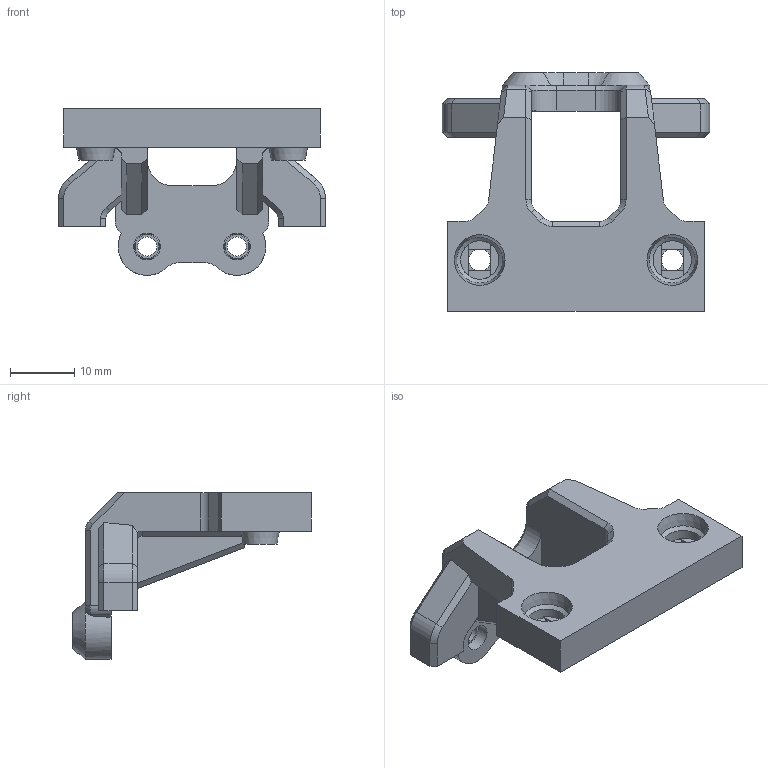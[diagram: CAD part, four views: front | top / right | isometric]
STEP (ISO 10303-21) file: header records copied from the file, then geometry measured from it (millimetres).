
FILE_DESCRIPTION(/* description */ (''),/* implementation_level */ '2;1');
FILE_NAME(/* name */ 'HMG7-Creality-Spider-350-Mount.step',/* time_stamp */ '2022-11-01T22:09:51-07:00',/* author */ (''),/* organization */ (''),/* preprocessor_version */ 'ST-DEVELOPER v19.2',/* originating_system */ 'Autodesk Translation Framework v11.17.0.187',/* authorisation */ '');
FILE_SCHEMA (('AUTOMOTIVE_DESIGN { 1 0 10303 214 3 1 1 }'));
Length unit declared in the file: millimetre
Products named in the file (4): GEN_7_1.5; Creality_Spider_350; Spider_350_Top_Mount; M3_Heatset_Insert
Assembly tree (4 placements, depth 4):
  GEN_7_1.5
    Creality_Spider_350
      Spider_350_Top_Mount
        M3_Heatset_Insert  x2
Bounding box: 41.63 x 37.23 x 25.97 mm (x, y, z)
Volume: 8153.4 mm3; surface area: 5253.7 mm2
Topology: 3 solids, 3 shells, 589 faces, 1678 edges, 1095 vertices
Faces by surface type: cone 234, cylinder 134, plane 117, bspline 104
Full cylindrical faces by diameter (mm): 3 x2, 3.4 x2, 3.744 x4, 3.9 x2, 4.15 x2, 6 x2
Entity records: 20073 total; most frequent: CARTESIAN_POINT 10415, ORIENTED_EDGE 2156, DIRECTION 1902, EDGE_CURVE 1078, AXIS2_PLACEMENT_3D 775, VERTEX_POINT 696, EDGE_LOOP 398, FACE_OUTER_BOUND 386
